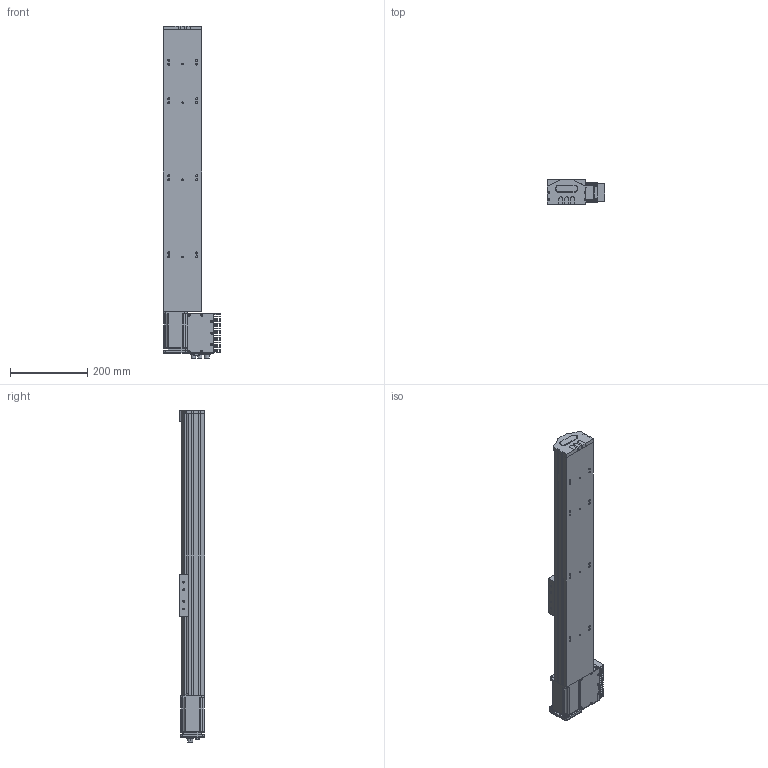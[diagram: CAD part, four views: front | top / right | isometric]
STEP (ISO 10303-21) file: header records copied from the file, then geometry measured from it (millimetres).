
FILE_DESCRIPTION (( 'STEP AP203' ), '1' );
FILE_NAME ('S 10 TSH MD S500.STEP', '2012-08-29T10:45:48', ( 'Conseil Régional Haute-Normandie' ), ( 'Conseil Régional Haute-Normandie' ), 'SwSTEP 2.0', 'SolidWorks 2010', '' );
FILE_SCHEMA (( 'CONFIG_CONTROL_DESIGN' ));
Length unit declared in the file: millimetre
Products named in the file (23): embout_modifié; remplir_Default; Colonnette_3; BU45 Carte d''axe A11_5; Moteur 60BLDC90A_3; Sub D 9cts 90_X2_00B_X0__3; Radiateur profil_X2_00E9_X0_ 100x25_3; S 10 TSH MD S500; axe730_Default; palette tbn2; piece_plastique remplieTSH_Default; Pièce2_Default; Assem1_7; T_X2_00F4_X0_le contre le moteur_5; BU41 Carte Alimentation P05_3; Couvercle_3; T_X2_00F4_X0_le fond_3; Connecteur rond D10 3cts_5; Connecteur rond D12 4cts_5; Colonnette ronde_3; T_X2_00F4_X0_le Arri_X2_00E8_X0_re_5; T_X2_00F4_X0_le lat_X2_00E9_X0_rale_5; Vis TF 3 torkx_1_1
Assembly tree (47 placements, depth 3):
  S 10 TSH MD S500
    axe730_Default
    Assem1_7
      T_X2_00F4_X0_le contre le moteur_5
      Moteur 60BLDC90A_3
      Connecteur rond D10 3cts_5  x2
      Vis TF 3 torkx_1_1  x21
      Colonnette_3  x2
      Couvercle_3
      Sub D 9cts 90_X2_00B_X0__3
      Colonnette ronde_3
      T_X2_00F4_X0_le lat_X2_00E9_X0_rale_5  x2
      Connecteur rond D12 4cts_5
      BU41 Carte Alimentation P05_3
      T_X2_00F4_X0_le fond_3
      Radiateur profil_X2_00E9_X0_ 100x25_3
      T_X2_00F4_X0_le Arri_X2_00E8_X0_re_5
      BU45 Carte d''axe A11_5
    piece_plastique remplieTSH_Default
      remplir_Default  x3
      embout_modifié
      Pièce2_Default
    palette tbn2
Bounding box: 148.26 x 66.75 x 861.6 mm (x, y, z)
Volume: 4482929.1 mm3; surface area: 594752.9 mm2
Topology: 45 solids, 45 shells, 1726 faces, 4403 edges, 2866 vertices
Faces by surface type: plane 799, cylinder 774, cone 150, torus 3
Entity records: 36182 total; most frequent: CARTESIAN_POINT 6123, DIRECTION 5908, ORIENTED_EDGE 5382, EDGE_CURVE 2691, AXIS2_PLACEMENT_3D 2164, VERTEX_POINT 1766, VECTOR 1580, LINE 1580
